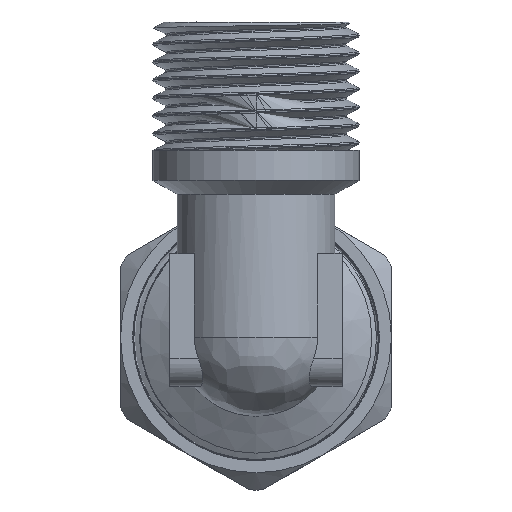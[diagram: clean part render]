
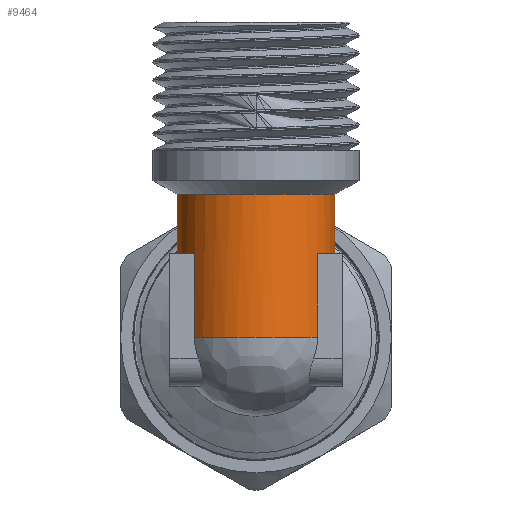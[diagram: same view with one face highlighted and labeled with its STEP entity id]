
A CAD part, front view. The second image highlights one B-rep face of the part: STEP entity #9464.
In plain terms, the highlighted cylindrical face has radius 8 mm (diameter 16 mm), a full revolution.
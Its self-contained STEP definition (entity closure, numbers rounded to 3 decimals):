
#966=ELLIPSE('',#10104,11.314,8.);
#1214=CYLINDRICAL_SURFACE('',#10148,8.);
#1351=FACE_OUTER_BOUND('',#1907,.T.);
#1907=EDGE_LOOP('',(#6666,#6667,#6668,#6669,#6670,#6671,#6672,#6673,#6674,
#6675,#6676,#6677,#6678,#6679));
#2531=LINE('',#12726,#3113);
#2536=LINE('',#12742,#3118);
#2537=LINE('',#12745,#3119);
#2540=LINE('',#12751,#3122);
#2546=LINE('',#12792,#3128);
#3113=VECTOR('',#10872,10.);
#3118=VECTOR('',#10879,10.);
#3119=VECTOR('',#10882,10.);
#3122=VECTOR('',#10887,10.);
#3128=VECTOR('',#10915,8.);
#3638=CIRCLE('',#10082,8.);
#3639=CIRCLE('',#10083,8.);
#3640=CIRCLE('',#10084,8.);
#3657=CIRCLE('',#10139,8.);
#3658=CIRCLE('',#10141,8.);
#3659=CIRCLE('',#10142,8.);
#3662=CIRCLE('',#10149,8.);
#3898=VERTEX_POINT('',#12420);
#3899=VERTEX_POINT('',#12422);
#3900=VERTEX_POINT('',#12424);
#3915=VERTEX_POINT('',#12465);
#3916=VERTEX_POINT('',#12467);
#3971=VERTEX_POINT('',#12718);
#3972=VERTEX_POINT('',#12725);
#3974=VERTEX_POINT('',#12731);
#3976=VERTEX_POINT('',#12740);
#3977=VERTEX_POINT('',#12744);
#3979=VERTEX_POINT('',#12750);
#3981=VERTEX_POINT('',#12759);
#4911=EDGE_CURVE('',#3899,#3898,#3638,.T.);
#4912=EDGE_CURVE('',#3900,#3899,#3639,.T.);
#4913=EDGE_CURVE('',#3898,#3900,#3640,.T.);
#4932=EDGE_CURVE('',#3915,#3916,#966,.T.);
#5016=EDGE_CURVE('',#3972,#3971,#2531,.T.);
#5022=EDGE_CURVE('',#3974,#3976,#2536,.T.);
#5023=EDGE_CURVE('',#3977,#3916,#2537,.T.);
#5026=EDGE_CURVE('',#3915,#3979,#2540,.T.);
#5029=EDGE_CURVE('',#3979,#3972,#3657,.T.);
#5031=EDGE_CURVE('',#3976,#3981,#3658,.T.);
#5033=EDGE_CURVE('',#3981,#3977,#3659,.T.);
#5037=EDGE_CURVE('',#3900,#3981,#2546,.T.);
#5038=EDGE_CURVE('',#3971,#3974,#3662,.T.);
#6666=ORIENTED_EDGE('',*,*,#4911,.T.);
#6667=ORIENTED_EDGE('',*,*,#4913,.T.);
#6668=ORIENTED_EDGE('',*,*,#5037,.T.);
#6669=ORIENTED_EDGE('',*,*,#5033,.T.);
#6670=ORIENTED_EDGE('',*,*,#5023,.T.);
#6671=ORIENTED_EDGE('',*,*,#4932,.F.);
#6672=ORIENTED_EDGE('',*,*,#5026,.T.);
#6673=ORIENTED_EDGE('',*,*,#5029,.T.);
#6674=ORIENTED_EDGE('',*,*,#5016,.T.);
#6675=ORIENTED_EDGE('',*,*,#5038,.T.);
#6676=ORIENTED_EDGE('',*,*,#5022,.T.);
#6677=ORIENTED_EDGE('',*,*,#5031,.T.);
#6678=ORIENTED_EDGE('',*,*,#5037,.F.);
#6679=ORIENTED_EDGE('',*,*,#4912,.T.);
#9464=ADVANCED_FACE('',(#1351),#1214,.T.);
#10082=AXIS2_PLACEMENT_3D('',#12423,#10695,#10696);
#10083=AXIS2_PLACEMENT_3D('',#12425,#10697,#10698);
#10084=AXIS2_PLACEMENT_3D('',#12426,#10699,#10700);
#10104=AXIS2_PLACEMENT_3D('',#12468,#10745,#10746);
#10139=AXIS2_PLACEMENT_3D('',#12756,#10892,#10893);
#10141=AXIS2_PLACEMENT_3D('',#12760,#10897,#10898);
#10142=AXIS2_PLACEMENT_3D('',#12762,#10900,#10901);
#10148=AXIS2_PLACEMENT_3D('',#12791,#10913,#10914);
#10149=AXIS2_PLACEMENT_3D('',#12793,#10916,#10917);
#10695=DIRECTION('center_axis',(0.,0.,-1.));
#10696=DIRECTION('ref_axis',(-1.,0.,0.));
#10697=DIRECTION('center_axis',(0.,0.,-1.));
#10698=DIRECTION('ref_axis',(-1.,0.,0.));
#10699=DIRECTION('center_axis',(0.,0.,-1.));
#10700=DIRECTION('ref_axis',(-1.,0.,0.));
#10745=DIRECTION('center_axis',(0.,0.707,-0.707));
#10746=DIRECTION('ref_axis',(0.,-0.707,-0.707));
#10872=DIRECTION('',(0.,0.,-1.));
#10879=DIRECTION('',(0.,0.,1.));
#10882=DIRECTION('',(0.,0.,-1.));
#10887=DIRECTION('',(0.,0.,1.));
#10892=DIRECTION('center_axis',(0.,0.,1.));
#10893=DIRECTION('ref_axis',(-1.,0.,0.));
#10897=DIRECTION('center_axis',(0.,0.,1.));
#10898=DIRECTION('ref_axis',(-1.,0.,0.));
#10900=DIRECTION('center_axis',(0.,0.,1.));
#10901=DIRECTION('ref_axis',(-1.,0.,0.));
#10913=DIRECTION('center_axis',(0.,0.,1.));
#10914=DIRECTION('ref_axis',(-1.,0.,0.));
#10915=DIRECTION('',(0.,0.,-1.));
#10916=DIRECTION('center_axis',(0.,0.,1.));
#10917=DIRECTION('ref_axis',(-1.,0.,0.));
#12420=CARTESIAN_POINT('',(0.,-21.,14.5));
#12422=CARTESIAN_POINT('',(0.,-37.,14.5));
#12423=CARTESIAN_POINT('Origin',(0.,-29.,14.5));
#12424=CARTESIAN_POINT('',(8.,-29.,14.5));
#12425=CARTESIAN_POINT('Origin',(0.,-29.,14.5));
#12426=CARTESIAN_POINT('Origin',(0.,-29.,14.5));
#12465=CARTESIAN_POINT('',(-6.245,-24.,5.));
#12467=CARTESIAN_POINT('',(6.245,-24.,5.));
#12468=CARTESIAN_POINT('Origin',(0.,-29.,0.));
#12718=CARTESIAN_POINT('',(-6.245,-34.,0.));
#12725=CARTESIAN_POINT('',(-6.245,-34.,8.5));
#12726=CARTESIAN_POINT('',(-6.245,-34.,0.));
#12731=CARTESIAN_POINT('',(6.245,-34.,0.));
#12740=CARTESIAN_POINT('',(6.245,-34.,8.5));
#12742=CARTESIAN_POINT('',(6.245,-34.,0.));
#12744=CARTESIAN_POINT('',(6.245,-24.,8.5));
#12745=CARTESIAN_POINT('',(6.245,-24.,0.));
#12750=CARTESIAN_POINT('',(-6.245,-24.,8.5));
#12751=CARTESIAN_POINT('',(-6.245,-24.,0.));
#12756=CARTESIAN_POINT('Origin',(0.,-29.,8.5));
#12759=CARTESIAN_POINT('',(8.,-29.,8.5));
#12760=CARTESIAN_POINT('Origin',(0.,-29.,8.5));
#12762=CARTESIAN_POINT('Origin',(0.,-29.,8.5));
#12791=CARTESIAN_POINT('Origin',(0.,-29.,0.));
#12792=CARTESIAN_POINT('',(8.,-29.,0.));
#12793=CARTESIAN_POINT('Origin',(0.,-29.,0.));
